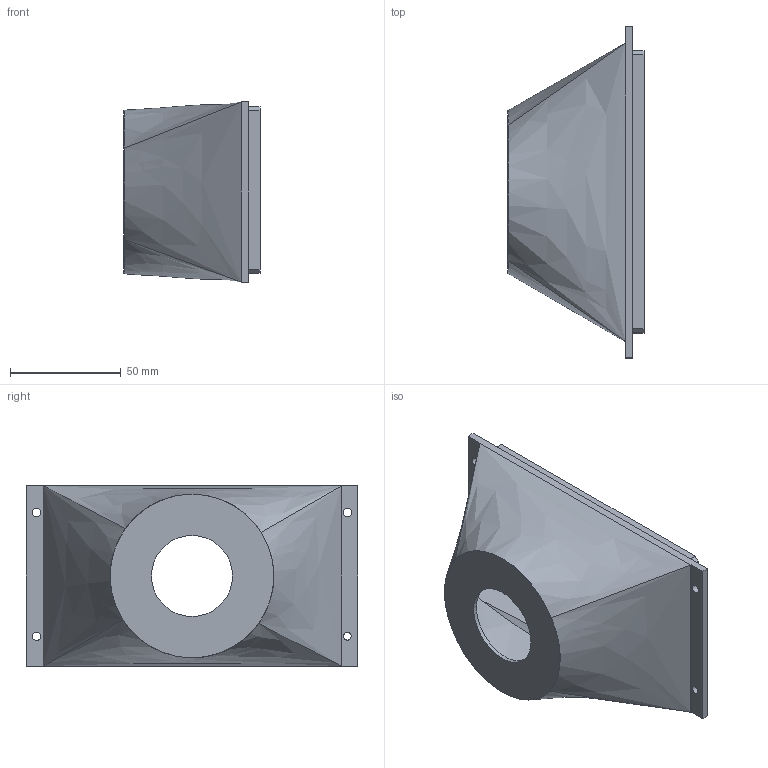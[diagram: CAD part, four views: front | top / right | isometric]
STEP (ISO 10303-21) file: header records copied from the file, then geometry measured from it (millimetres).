
FILE_DESCRIPTION(/* description */ (''),/* implementation_level */ '2;1');
FILE_NAME(/* name */ 'C:/Users/mcjor/3D Objects/6x17 Camera/6x12/90mm angulon (89.5mm flange).stp',/* time_stamp */ '2022-07-03T17:33:12+02:00',/* author */ (''),/* organization */ (''),/* preprocessor_version */ 'ST-DEVELOPER v15.2',/* originating_system */ 'Autodesk Translator Framework v2.0.0.5431',/* authorisation */ '');
FILE_SCHEMA (('AUTOMOTIVE_DESIGN { 1 0 10303 214 3 1 1 }'));
Length unit declared in the file: centimetre
Products named in the file (1): 90mm cone
Bounding box: 61.53 x 150 x 81.51 mm (x, y, z)
Volume: 60548.3 mm3; surface area: 54542.2 mm2
Topology: 1 solids, 1 shells, 60 faces, 161 edges, 106 vertices
Faces by surface type: plane 37, bspline 17, cylinder 6
Full cylindrical faces by diameter (mm): 3.439 x1, 3.839 x3, 36.6 x1, 74 x1
Entity records: 2356 total; most frequent: CARTESIAN_POINT 965, ORIENTED_EDGE 310, DIRECTION 212, EDGE_CURVE 155, VERTEX_POINT 106, LINE 92, VECTOR 92, EDGE_LOOP 79
